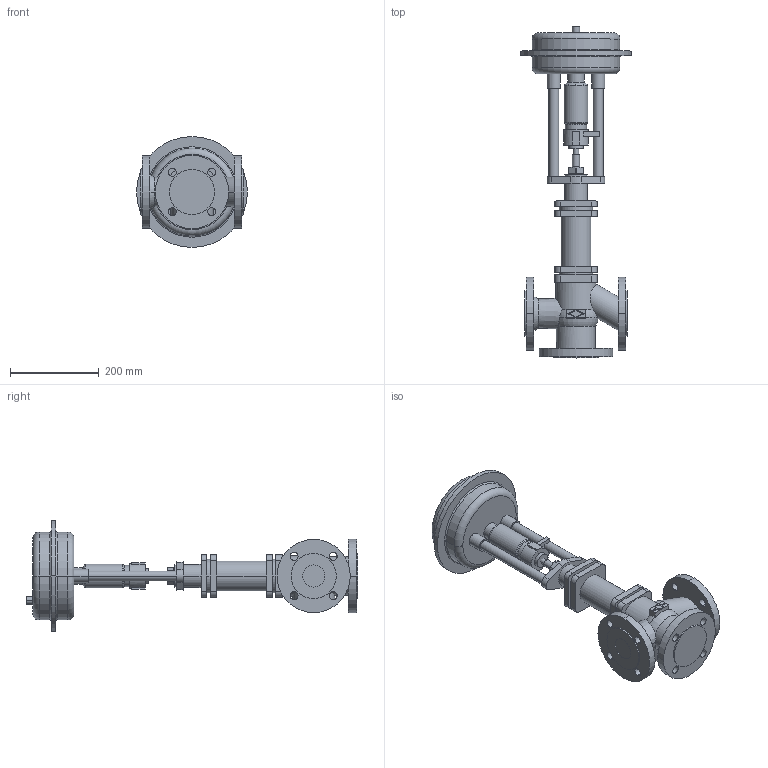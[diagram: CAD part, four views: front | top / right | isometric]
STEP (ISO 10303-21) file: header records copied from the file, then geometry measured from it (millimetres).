
FILE_DESCRIPTION(('OneSpaceDesigner STEP Export'),'2;1');
FILE_NAME('c000000748.stp','2006-09-20T11:30:15',(''),(''),'OneSpace Designer STEP processor for AP214 (Solid Model)','OneSpace Designer 13.20A 18-Aug-2005 (C) CoCreate Software GmbH','');
FILE_SCHEMA(('AUTOMOTIVE_DESIGN { 1 0 10303 214 1 1 1 1 }'));
Length unit declared in the file: millimetre
Products named in the file (2): 1; 2
Bounding box: 250 x 748.5 x 250 mm (x, y, z)
Volume: 7385616.1 mm3; surface area: 544992.9 mm2
Topology: 2 solids, 2 shells, 243 faces, 592 edges, 387 vertices
Faces by surface type: cylinder 116, plane 97, torus 22, cone 8
Entity records: 6832 total; most frequent: CARTESIAN_POINT 1485, ORIENTED_EDGE 1184, DIRECTION 998, EDGE_CURVE 592, VERTEX_POINT 387, AXIS2_PLACEMENT_3D 360, EDGE_LOOP 301, VECTOR 278
